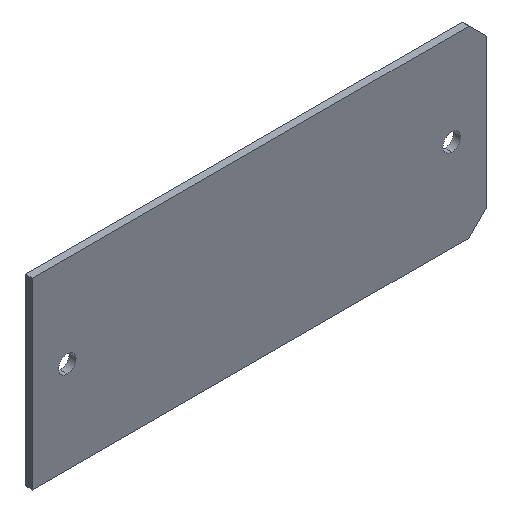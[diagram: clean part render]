
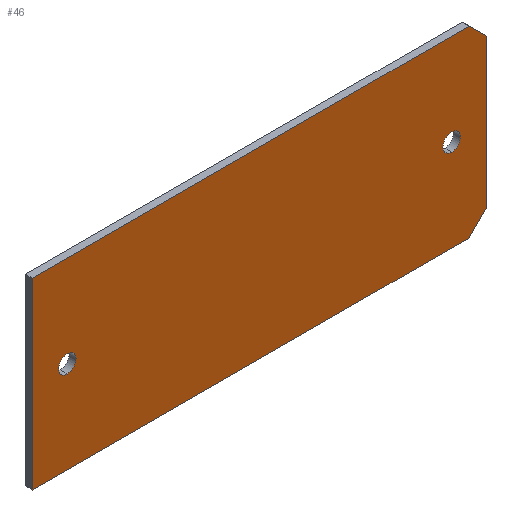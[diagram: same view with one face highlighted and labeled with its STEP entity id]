
A CAD part, isometric view. The second image highlights one B-rep face of the part: STEP entity #46.
In plain terms, the highlighted planar face has unit normal (0, -1, 0).
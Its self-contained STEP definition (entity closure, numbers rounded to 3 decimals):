
#25 = EDGE_CURVE ( 'NONE', #192, #163, #118, .T. ) ;
#33 = VECTOR ( 'NONE', #51, 1000. ) ;
#46 = ADVANCED_FACE ( 'NONE', ( #394, #108, #78 ), #401, .F. ) ;
#49 = LINE ( 'NONE', #169, #413 ) ;
#50 = DIRECTION ( 'NONE',  ( 0., 1., 0. ) ) ;
#51 = DIRECTION ( 'NONE',  ( 0.707, 0., 0.707 ) ) ;
#52 = VERTEX_POINT ( 'NONE', #237 ) ;
#54 = EDGE_CURVE ( 'NONE', #272, #282, #82, .T. ) ;
#58 = VECTOR ( 'NONE', #298, 1000. ) ;
#61 = CARTESIAN_POINT ( 'NONE',  ( -22., 0., 0. ) ) ;
#63 = ORIENTED_EDGE ( 'NONE', *, *, #85, .T. ) ;
#64 = CARTESIAN_POINT ( 'NONE',  ( 24., 0., 10.5 ) ) ;
#66 = AXIS2_PLACEMENT_3D ( 'NONE', #137, #385, #251 ) ;
#70 = VERTEX_POINT ( 'NONE', #260 ) ;
#73 = AXIS2_PLACEMENT_3D ( 'NONE', #61, #242, #152 ) ;
#77 = CARTESIAN_POINT ( 'NONE',  ( 24., 0., -10.5 ) ) ;
#78 = FACE_OUTER_BOUND ( 'NONE', #318, .T. ) ;
#79 = CARTESIAN_POINT ( 'NONE',  ( -22., 0., 0. ) ) ;
#82 = LINE ( 'NONE', #204, #58 ) ;
#83 = CARTESIAN_POINT ( 'NONE',  ( -26., 0., 10.5 ) ) ;
#85 = EDGE_CURVE ( 'NONE', #163, #192, #299, .T. ) ;
#91 = CARTESIAN_POINT ( 'NONE',  ( 24., 0., -10.5 ) ) ;
#92 = AXIS2_PLACEMENT_3D ( 'NONE', #201, #331, #112 ) ;
#107 = DIRECTION ( 'NONE',  ( 0., 0., 1. ) ) ;
#108 = FACE_BOUND ( 'NONE', #164, .T. ) ;
#110 = DIRECTION ( 'NONE',  ( 0., 0., 1. ) ) ;
#112 = DIRECTION ( 'NONE',  ( 0., 0., 1. ) ) ;
#113 = CARTESIAN_POINT ( 'NONE',  ( 26., 0., -10.5 ) ) ;
#114 = EDGE_CURVE ( 'NONE', #282, #185, #254, .T. ) ;
#118 = CIRCLE ( 'NONE', #182, 1. ) ;
#121 = ORIENTED_EDGE ( 'NONE', *, *, #151, .F. ) ;
#137 = CARTESIAN_POINT ( 'NONE',  ( 22., 0., 0. ) ) ;
#151 = EDGE_CURVE ( 'NONE', #328, #272, #155, .T. ) ;
#152 = DIRECTION ( 'NONE',  ( 0., 0., 1. ) ) ;
#153 = ORIENTED_EDGE ( 'NONE', *, *, #285, .F. ) ;
#155 = LINE ( 'NONE', #323, #165 ) ;
#163 = VERTEX_POINT ( 'NONE', #216 ) ;
#164 = EDGE_LOOP ( 'NONE', ( #221, #63 ) ) ;
#165 = VECTOR ( 'NONE', #320, 1000. ) ;
#169 = CARTESIAN_POINT ( 'NONE',  ( 26., 0., 8.5 ) ) ;
#172 = CIRCLE ( 'NONE', #73, 1. ) ;
#182 = AXIS2_PLACEMENT_3D ( 'NONE', #396, #399, #110 ) ;
#185 = VERTEX_POINT ( 'NONE', #64 ) ;
#192 = VERTEX_POINT ( 'NONE', #295 ) ;
#194 = CIRCLE ( 'NONE', #400, 1. ) ;
#197 = VERTEX_POINT ( 'NONE', #233 ) ;
#199 = EDGE_CURVE ( 'NONE', #197, #261, #194, .T. ) ;
#201 = CARTESIAN_POINT ( 'NONE',  ( 0., 0., 0. ) ) ;
#204 = CARTESIAN_POINT ( 'NONE',  ( -26., 0., -10.5 ) ) ;
#216 = CARTESIAN_POINT ( 'NONE',  ( 22., 0., -1. ) ) ;
#221 = ORIENTED_EDGE ( 'NONE', *, *, #25, .T. ) ;
#226 = CARTESIAN_POINT ( 'NONE',  ( -26., 0., 10.5 ) ) ;
#228 = CARTESIAN_POINT ( 'NONE',  ( -22., 0., -1. ) ) ;
#233 = CARTESIAN_POINT ( 'NONE',  ( -22., 0., 1. ) ) ;
#237 = CARTESIAN_POINT ( 'NONE',  ( 26., 0., -8.5 ) ) ;
#240 = DIRECTION ( 'NONE',  ( -0.707, 0., 0.707 ) ) ;
#242 = DIRECTION ( 'NONE',  ( 0., 1., 0. ) ) ;
#244 = LINE ( 'NONE', #91, #33 ) ;
#251 = DIRECTION ( 'NONE',  ( 0., 0., 1. ) ) ;
#254 = LINE ( 'NONE', #226, #405 ) ;
#256 = EDGE_CURVE ( 'NONE', #70, #185, #49, .T. ) ;
#260 = CARTESIAN_POINT ( 'NONE',  ( 26., 0., 8.5 ) ) ;
#261 = VERTEX_POINT ( 'NONE', #228 ) ;
#272 = VERTEX_POINT ( 'NONE', #398 ) ;
#281 = EDGE_LOOP ( 'NONE', ( #303, #351 ) ) ;
#282 = VERTEX_POINT ( 'NONE', #83 ) ;
#285 = EDGE_CURVE ( 'NONE', #70, #52, #329, .T. ) ;
#291 = ORIENTED_EDGE ( 'NONE', *, *, #114, .F. ) ;
#295 = CARTESIAN_POINT ( 'NONE',  ( 22., 0., 1. ) ) ;
#298 = DIRECTION ( 'NONE',  ( 0., 0., 1. ) ) ;
#299 = CIRCLE ( 'NONE', #66, 1. ) ;
#303 = ORIENTED_EDGE ( 'NONE', *, *, #199, .T. ) ;
#310 = DIRECTION ( 'NONE',  ( 1., 0., 0. ) ) ;
#318 = EDGE_LOOP ( 'NONE', ( #153, #376, #291, #409, #121, #374 ) ) ;
#320 = DIRECTION ( 'NONE',  ( -1., 0., 0. ) ) ;
#323 = CARTESIAN_POINT ( 'NONE',  ( -26., 0., -10.5 ) ) ;
#328 = VERTEX_POINT ( 'NONE', #77 ) ;
#329 = LINE ( 'NONE', #113, #333 ) ;
#331 = DIRECTION ( 'NONE',  ( 0., 1., 0. ) ) ;
#333 = VECTOR ( 'NONE', #366, 1000. ) ;
#347 = EDGE_CURVE ( 'NONE', #261, #197, #172, .T. ) ;
#351 = ORIENTED_EDGE ( 'NONE', *, *, #347, .T. ) ;
#365 = EDGE_CURVE ( 'NONE', #328, #52, #244, .T. ) ;
#366 = DIRECTION ( 'NONE',  ( 0., 0., -1. ) ) ;
#374 = ORIENTED_EDGE ( 'NONE', *, *, #365, .T. ) ;
#376 = ORIENTED_EDGE ( 'NONE', *, *, #256, .T. ) ;
#385 = DIRECTION ( 'NONE',  ( 0., 1., 0. ) ) ;
#394 = FACE_BOUND ( 'NONE', #281, .T. ) ;
#396 = CARTESIAN_POINT ( 'NONE',  ( 22., 0., 0. ) ) ;
#398 = CARTESIAN_POINT ( 'NONE',  ( -26., 0., -10.5 ) ) ;
#399 = DIRECTION ( 'NONE',  ( 0., 1., 0. ) ) ;
#400 = AXIS2_PLACEMENT_3D ( 'NONE', #79, #50, #107 ) ;
#401 = PLANE ( 'NONE',  #92 ) ;
#405 = VECTOR ( 'NONE', #310, 1000. ) ;
#409 = ORIENTED_EDGE ( 'NONE', *, *, #54, .F. ) ;
#413 = VECTOR ( 'NONE', #240, 1000. ) ;
